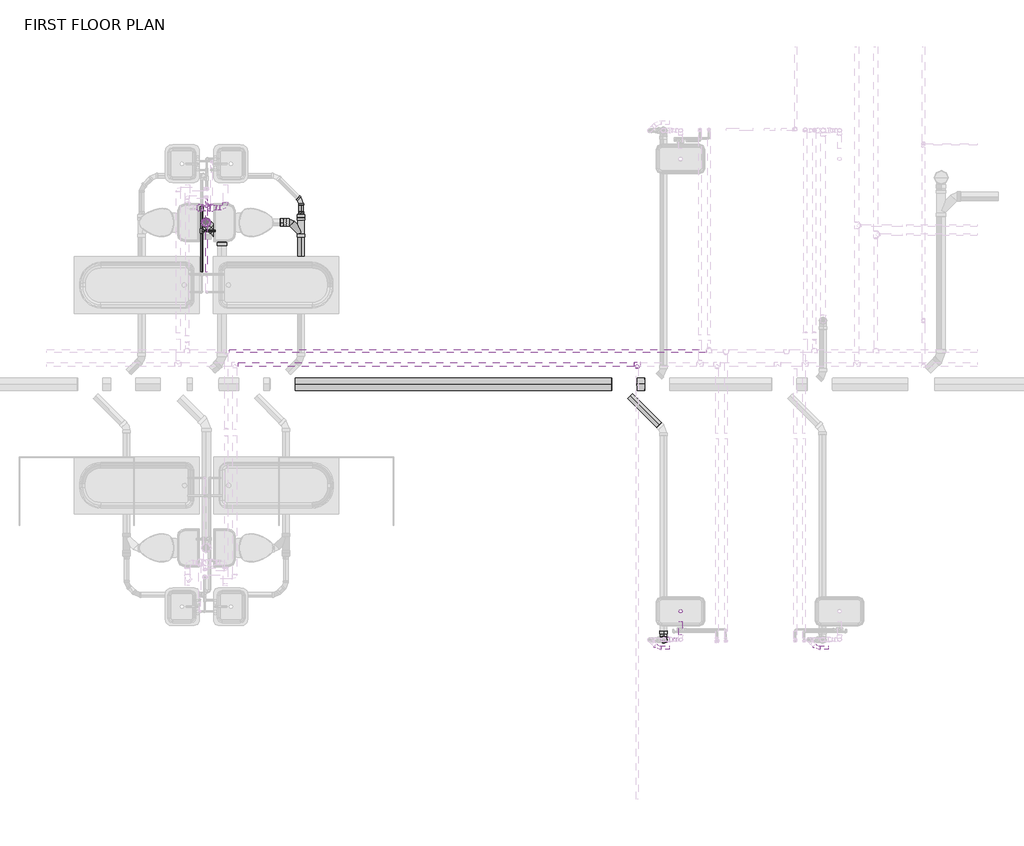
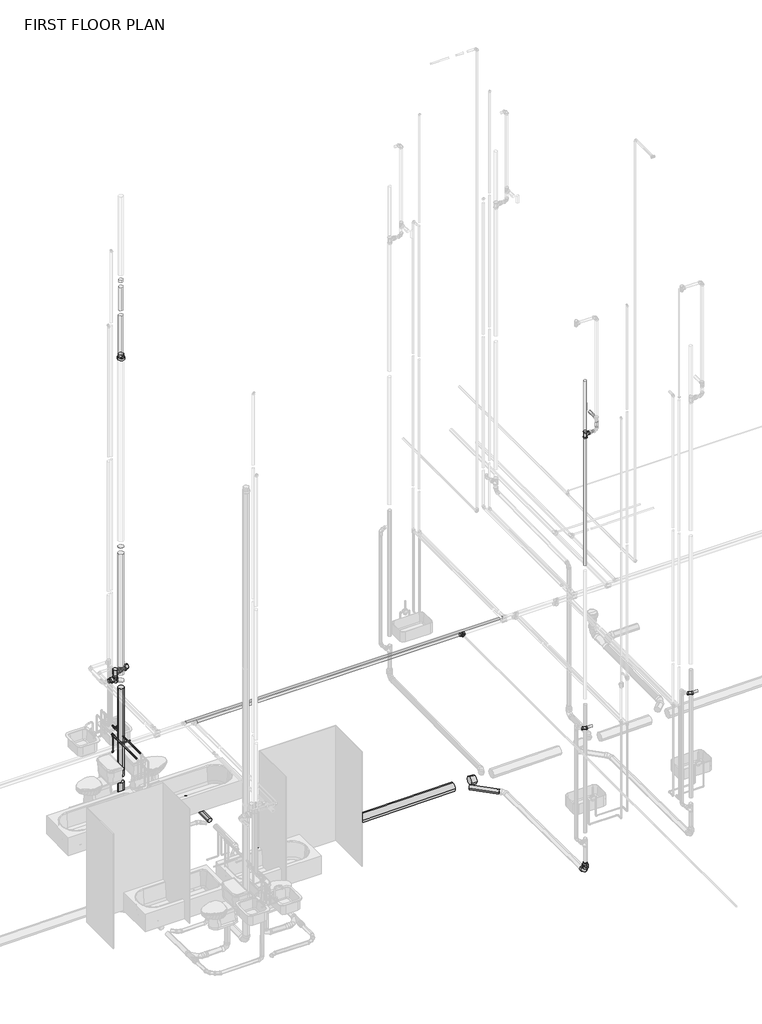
# One storey, part 9 of 29: 32 pipe segments, 27 pipe fittings.
"""IFC4 building model written with IfcOpenShell, lengths in millimetres."""

from ifc_helpers import new_model, si_unit, point, frame, frame_2d, origin, place, context, project, spatial, circle_curve, trimmed, segment, composite_curve, outline, extrude, transform, mapped, element, save
from components import bend_pvc_sch_40_dwv_standard_ddf7f1b2, bend_pvc_sch_40_dwv_standard_9a61ab34, bend_pvc_sch_40_dwv_standard_9d8d5a04, bend_pvc_sch_40_dwv_standard_9f71c251, bend_pvc_sch_40_dwv_standard_5c4d2726, bend_pvc_sch_40_dwv_standard_56c8873b, pipe_elbow_copper_k_feaaf02c, pipe_elbow_copper_k_aad62f2d, pipe_tee_copper_k_36278b8a, pipe_tee_copper_k_ee363fbf, pipe_tee_copper_k_feafe2f1, pipe_tee_copper_k_66279296, pipe_tee_standard_eb115f45, pipe_transition_copper_k_2e591508, pipe_transition_copper_k_b4f16853, pipe_transition_copper_k_b63fd5dd, reducer_pvc_sch_40_dwv_standard_464ee0c2, reducer_pvc_sch_40_dwv_standard_f8e5081b, reducer_pvc_sch_40_dwv_standard_80dbeaf5, reducer_pvc_sch_40_dwv_standard_58c00515, standard_544587f6, tee_sanitary_pvc_sch_40_dwv_standard_63ee02c0

model = new_model("IFC4")

# Units and contexts
model_context = context("Model", 3, world=origin())
ifc_project = project(units=[si_unit("LENGTHUNIT", "METRE", prefix="MILLI")], contexts=[model_context])

# Site, building, storey
site = spatial("IfcSite", under=ifc_project)
building = spatial("IfcBuilding", under=site)
storey = spatial("IfcBuildingStorey", under=building, Name="FIRST FLOOR PLAN", Elevation=0.0)

# Pipe fittings
placement = place(None, origin())
bend_pvc_sch_40_dwv_standard_shape = bend_pvc_sch_40_dwv_standard_ddf7f1b2(model_context)
element("IfcPipeFitting", 1, ObjectType="Bend - PVC - Sch 40 - DWV : Standard", at=placement, inside=storey, context=model_context, shape_type="MappedRepresentation", body=[
    mapped(bend_pvc_sch_40_dwv_standard_shape, transform((8238.7321961, 2089.9221741, -445.6253175), x_axis=(0.0, 0.0, -1.0), y_axis=(0.0, -1.0, 0.0), z_axis=(-1.0, 0.0, 0.0))),
])
bend_pvc_sch_40_dwv_standard_2_shape = bend_pvc_sch_40_dwv_standard_9a61ab34(model_context)
element("IfcPipeFitting", 2, ObjectType="Bend - PVC - Sch 40 - DWV : Standard", at=placement, inside=storey, context=model_context, shape_type="MappedRepresentation", body=[
    mapped(bend_pvc_sch_40_dwv_standard_2_shape, transform((8161.8285818, 1981.9339371, 2685.810937), x_axis=(-0.9999457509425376, 0.0, 0.010416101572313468), y_axis=(-4.542044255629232e-05, -0.9999904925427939, -0.004360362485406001), z_axis=(0.010416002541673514, -0.004360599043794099, 0.9999362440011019))),
])
element("IfcPipeFitting", 3, ObjectType="Bend - PVC - Sch 40 - DWV : Standard", at=placement, inside=storey, context=model_context, shape_type="MappedRepresentation", body=[
    mapped(bend_pvc_sch_40_dwv_standard_2_shape, transform((10290.2035818, 1981.9339371, 2685.810937), x_axis=(-0.9999457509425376, 0.0, 0.010416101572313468), y_axis=(-4.542044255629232e-05, -0.9999904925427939, -0.004360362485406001), z_axis=(0.010416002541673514, -0.004360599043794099, 0.9999362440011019))),
])
bend_pvc_sch_40_dwv_standard_3_shape = bend_pvc_sch_40_dwv_standard_9d8d5a04(model_context)
element("IfcPipeFitting", 4, ObjectType="Bend - PVC - Sch 40 - DWV : Standard", at=placement, inside=storey, context=model_context, shape_type="MappedRepresentation", body=[
    mapped(bend_pvc_sch_40_dwv_standard_3_shape, transform((3385.2549441, 7972.935376, -498.9480987), x_axis=(0.0, 0.9999457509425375, 0.010416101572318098), y_axis=(-0.9999906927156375, -4.493975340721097e-05, 0.004314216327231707), z_axis=(0.00431445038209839, -0.010416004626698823, 0.9999364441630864))),
])
bend_pvc_sch_40_dwv_standard_4_shape = bend_pvc_sch_40_dwv_standard_9f71c251(model_context)
element("IfcPipeFitting", 5, ObjectType="Bend - PVC - Sch 40 - DWV : Standard", at=placement, inside=storey, context=model_context, shape_type="MappedRepresentation", body=[
    mapped(bend_pvc_sch_40_dwv_standard_4_shape, transform((2111.7532984, 7679.2053289, -503.3650442), x_axis=(6.123351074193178e-08, 0.0, -0.9999999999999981), y_axis=(0.707145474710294, -0.7070680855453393, 4.330100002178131e-08), z_axis=(-0.707068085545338, -0.7071454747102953, -4.3296261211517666e-08))),
])
bend_pvc_sch_40_dwv_standard_5_shape = bend_pvc_sch_40_dwv_standard_5c4d2726(model_context)
element("IfcPipeFitting", 6, ObjectType="Bend - PVC - Sch 40 - DWV : Standard", at=placement, inside=storey, context=model_context, shape_type="MappedRepresentation", body=[
    mapped(bend_pvc_sch_40_dwv_standard_5_shape, transform((2324.8590713, 7466.1228783, -506.5176658), x_axis=(0.0, 0.9998905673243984, 0.014793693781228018), y_axis=(-1.0, 0.0, -8.501431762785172e-12), z_axis=(-8.502362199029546e-12, -0.014793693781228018, 0.9998905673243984))),
])
bend_pvc_sch_40_dwv_standard_6_shape = bend_pvc_sch_40_dwv_standard_56c8873b(model_context)
element("IfcPipeFitting", 7, ObjectType="Bend - PVC - Sch 40 - DWV : Standard", at=placement, inside=storey, context=model_context, shape_type="MappedRepresentation", body=[
    mapped(bend_pvc_sch_40_dwv_standard_6_shape, transform((2372.3084875, 7876.8887644, 2438.3990858), x_axis=(0.9999989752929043, 0.0, -0.0014315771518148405), y_axis=(-1.2572894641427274e-08, 0.9999999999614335, -8.782538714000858e-06), z_axis=(0.0014315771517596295, 8.782547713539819e-06, 0.9999989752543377))),
])
pipe_elbow_copper_k_shape = pipe_elbow_copper_k_feaaf02c(model_context)
element("IfcPipeFitting", 8, ObjectType="Pipe Elbow : Copper- K", at=placement, inside=storey, context=model_context, shape_type="MappedRepresentation", body=[
    mapped(pipe_elbow_copper_k_shape, transform((2186.5709875, 7910.5468309, 1219.2), x_axis=(1.0, 0.0, 0.0), y_axis=(0.0, 1.0, 0.0), z_axis=(0.0, 0.0, 1.0))),
])
pipe_elbow_copper_k_2_shape = pipe_elbow_copper_k_aad62f2d(model_context)
element("IfcPipeFitting", 9, ObjectType="Pipe Elbow : Copper- K", at=placement, inside=storey, context=model_context, shape_type="MappedRepresentation", body=[
    mapped(pipe_elbow_copper_k_2_shape, transform((2054.8084875, 7859.3528944, 762.0), x_axis=(0.0, 0.0, -1.0), y_axis=(-1.0, 0.0, 0.0), z_axis=(0.0, 1.0, 0.0))),
])
pipe_tee_copper_k_shape = pipe_tee_copper_k_36278b8a(model_context)
element("IfcPipeFitting", 10, ObjectType="Pipe Tee : Copper- K", at=placement, inside=storey, context=model_context, shape_type="MappedRepresentation", body=[
    mapped(pipe_tee_copper_k_shape, transform((7886.7826705, 5778.2175381, 2490.6882813), x_axis=(1.0, 0.0, 0.0), y_axis=(0.0, 1.0, 0.0), z_axis=(0.0, 0.0, 1.0))),
])
pipe_tee_copper_k_2_shape = pipe_tee_copper_k_ee363fbf(model_context)
element("IfcPipeFitting", 11, ObjectType="Pipe Tee : Copper- K", at=placement, inside=storey, context=model_context, shape_type="MappedRepresentation", body=[
    mapped(pipe_tee_copper_k_2_shape, transform((2118.3084875, 7910.5468309, 1219.2), x_axis=(0.0, 1.0, 0.0), y_axis=(-1.0, 0.0, 0.0), z_axis=(0.0, 0.0, 1.0))),
])
pipe_tee_copper_k_3_shape = pipe_tee_copper_k_feafe2f1(model_context)
element("IfcPipeFitting", 12, ObjectType="Pipe Tee : Copper- K", at=placement, inside=storey, context=model_context, shape_type="MappedRepresentation", body=[
    mapped(pipe_tee_copper_k_3_shape, transform((2054.8084875, 7859.3528944, 1117.6), x_axis=(0.0, 1.0, 0.0), y_axis=(0.0, 0.0, 1.0), z_axis=(1.0, 0.0, 0.0))),
])
element("IfcPipeFitting", 13, ObjectType="Pipe Tee : Copper- K", at=placement, inside=storey, context=model_context, shape_type="MappedRepresentation", body=[
    mapped(pipe_tee_copper_k_3_shape, transform((2054.8084875, 7567.5498426, 1117.6), x_axis=(0.0, 1.0, 0.0), y_axis=(-1.0, 0.0, 0.0), z_axis=(0.0, 0.0, 1.0))),
])
pipe_tee_copper_k_4_shape = pipe_tee_copper_k_66279296(model_context)
element("IfcPipeFitting", 14, ObjectType="Pipe Tee : Standard", at=placement, inside=storey, context=model_context, shape_type="MappedRepresentation", body=[
    mapped(pipe_tee_copper_k_4_shape, transform((2111.7559337, 7876.8887644, 2285.9990858), x_axis=(0.0, 0.0, 1.0), y_axis=(1.0, 0.0, 0.0), z_axis=(0.0, 1.0, 0.0))),
])
pipe_tee_standard_shape = pipe_tee_standard_eb115f45(model_context)
element("IfcPipeFitting", 15, ObjectType="Pipe Tee : Standard", at=placement, inside=storey, context=model_context, shape_type="MappedRepresentation", body=[
    mapped(pipe_tee_standard_shape, transform((2111.7559337, 7876.8887644, 2438.7627068), x_axis=(0.0, 0.0, 1.0), y_axis=(-1.0, 0.0, 0.0), z_axis=(0.0, -1.0, 0.0))),
])
pipe_transition_copper_k_shape = pipe_transition_copper_k_2e591508(model_context)
element("IfcPipeFitting", 16, ObjectType="Pipe Transition : Copper- K", at=placement, inside=storey, context=model_context, shape_type="MappedRepresentation", body=[
    mapped(pipe_transition_copper_k_shape, transform((7886.7826705, 5735.3550381, 2490.6882813), x_axis=(0.0, -1.0, 0.0), y_axis=(1.0, 0.0, 0.0), z_axis=(0.0, 0.0, 1.0))),
])
pipe_transition_copper_k_2_shape = pipe_transition_copper_k_b4f16853(model_context)
element("IfcPipeFitting", 17, ObjectType="Pipe Transition : Copper- K", at=placement, inside=storey, context=model_context, shape_type="MappedRepresentation", body=[
    mapped(pipe_transition_copper_k_2_shape, transform((2054.8084875, 7537.3873426, 1117.6), x_axis=(0.0, -1.0, 0.0), y_axis=(1.0, 0.0, 0.0), z_axis=(0.0, 0.0, 1.0))),
])
pipe_transition_copper_k_3_shape = pipe_transition_copper_k_b63fd5dd(model_context)
element("IfcPipeFitting", 18, ObjectType="Pipe Transition : Copper- K", at=placement, inside=storey, context=model_context, shape_type="MappedRepresentation", body=[
    mapped(pipe_transition_copper_k_3_shape, transform((2054.8084875, 7859.3528944, 1087.4375), x_axis=(0.0, 0.0, -1.0), y_axis=(0.0, -1.0, 0.0), z_axis=(-1.0, 0.0, 0.0))),
])
element("IfcPipeFitting", 19, ObjectType="Pipe Transition : Copper- K", at=placement, inside=storey, context=model_context, shape_type="MappedRepresentation", body=[
    mapped(pipe_transition_copper_k_3_shape, transform((2084.9709875, 7567.5498426, 1117.6), x_axis=(1.0, 0.0, 0.0), y_axis=(0.0, 1.0, 0.0), z_axis=(0.0, 0.0, 1.0))),
])
reducer_pvc_sch_40_dwv_standard_shape = reducer_pvc_sch_40_dwv_standard_464ee0c2(model_context)
element("IfcPipeFitting", 20, ObjectType="Reducer - PVC - Sch 40 - DWV : Standard", at=placement, inside=storey, context=model_context, shape_type="MappedRepresentation", body=[
    mapped(reducer_pvc_sch_40_dwv_standard_shape, transform((3385.2549441, 7747.9647209, -501.291543), x_axis=(0.0, 0.9999457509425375, 0.010416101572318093), y_axis=(-0.9999457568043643, -0.00010848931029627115, 0.010414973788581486), z_axis=(0.010415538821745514, -0.010415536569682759, 0.999891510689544))),
])
reducer_pvc_sch_40_dwv_standard_2_shape = reducer_pvc_sch_40_dwv_standard_f8e5081b(model_context)
element("IfcPipeFitting", 21, ObjectType="Reducer - PVC - Sch 40 - DWV : Standard", at=placement, inside=storey, context=model_context, shape_type="MappedRepresentation", body=[
    mapped(reducer_pvc_sch_40_dwv_standard_2_shape, transform((8238.7321961, 2089.9221741, -329.7251175), x_axis=(0.0, 0.0, 1.0), y_axis=(0.0, -1.0, 0.0), z_axis=(1.0, 0.0, 0.0))),
])
element("IfcPipeFitting", 22, ObjectType="Reducer - PVC - Sch 40 - DWV : Standard", at=placement, inside=storey, context=model_context, shape_type="MappedRepresentation", body=[
    mapped(reducer_pvc_sch_40_dwv_standard_2_shape, transform((2056.1934337, 7876.8887644, 2285.9990858), x_axis=(-1.0, 0.0, 0.0), y_axis=(0.0, -1.0, 0.0), z_axis=(0.0, 0.0, 1.0))),
])
element("IfcPipeFitting", 23, ObjectType="Reducer - PVC - Sch 40 - DWV : Standard", at=placement, inside=storey, context=model_context, shape_type="MappedRepresentation", body=[
    mapped(reducer_pvc_sch_40_dwv_standard_2_shape, transform((2167.3183768, 7876.8887644, 2438.6831648), x_axis=(0.9999989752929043, 0.0, -0.001431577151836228), y_axis=(0.0, 1.0000000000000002, 0.0), z_axis=(0.001431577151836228, 0.0, 0.9999989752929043))),
])
reducer_pvc_sch_40_dwv_standard_3_shape = reducer_pvc_sch_40_dwv_standard_80dbeaf5(model_context)
element("IfcPipeFitting", 24, ObjectType="Reducer - PVC - Sch 40 - DWV : Standard", at=placement, inside=storey, context=model_context, shape_type="MappedRepresentation", body=[
    mapped(reducer_pvc_sch_40_dwv_standard_3_shape, transform((3187.6282648, 7680.8696436, -499.9318384), x_axis=(-0.9999457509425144, -2.162118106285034e-07, 0.01041610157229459), y_axis=(-0.00010827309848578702, -0.9999457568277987, -0.010414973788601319), z_axis=(0.010415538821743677, -0.010415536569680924, 0.9998915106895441))),
])
reducer_pvc_sch_40_dwv_standard_4_shape = reducer_pvc_sch_40_dwv_standard_58c00515(model_context)
element("IfcPipeFitting", 25, ObjectType="Reducer - PVC - Sch 40 - DWV : Standard", at=placement, inside=storey, context=model_context, shape_type="MappedRepresentation", body=[
    mapped(reducer_pvc_sch_40_dwv_standard_4_shape, transform((2111.7559411, 7679.2137881, 9222.9259733), x_axis=(-6.991457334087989e-08, 0.0, 0.9999999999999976), y_axis=(0.9999999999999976, 0.0, 6.991457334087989e-08), z_axis=(0.0, 1.0, 0.0))),
])
standard_shape = standard_544587f6(model_context)
element("IfcPipeFitting", 26, ObjectType="GES Wye Combination with 8th Bend - PVC - Sch 40 - DWV : Standard", at=placement, inside=storey, context=model_context, shape_type="MappedRepresentation", body=[
    mapped(standard_shape, transform((3385.2549441, 7680.8696864, -501.9904497), x_axis=(0.0, 0.9999457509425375, 0.010416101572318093), y_axis=(0.9999457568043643, 0.000108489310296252, -0.010414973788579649), z_axis=(-0.010415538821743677, 0.010415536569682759, -0.999891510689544))),
])
tee_sanitary_pvc_sch_40_dwv_standard_shape = tee_sanitary_pvc_sch_40_dwv_standard_63ee02c0(model_context)
element("IfcPipeFitting", 27, ObjectType="Tee Sanitary - PVC - Sch 40 - DWV : Standard", at=placement, inside=storey, context=model_context, shape_type="MappedRepresentation", body=[
    mapped(tee_sanitary_pvc_sch_40_dwv_standard_shape, transform((8238.7396365, 2089.8941393, 8869.5241105), x_axis=(0.0, 0.0, 1.0), y_axis=(1.0, 0.0, 0.0), z_axis=(0.0, 1.0, 0.0))),
])

# Pipe segments
element("IfcPipeSegment", 28, ObjectType="Copper", at=placement, inside=storey, context=model_context, shape_type="SweptSolid", body=[
    extrude(outline(composite_curve([segment(trimmed(circle_curve(frame_2d((5778.2175381, 2490.6882813)), 26.9875), [point((5805.2050381, 2490.6882813))], [point((5778.2175381, 2463.7007813))], False, "CARTESIAN"), True, "CONTINUOUS"), segment(trimmed(circle_curve(frame_2d((5778.2175381, 2490.6882813)), 26.9875), [point((5778.2175381, 2463.7007813))], [point((5751.2300381, 2490.6882813))], False, "CARTESIAN"), True, "CONTINUOUS"), segment(trimmed(circle_curve(frame_2d((5778.2175381, 2490.6882813)), 26.9875), [point((5751.2300381, 2490.6882813))], [point((5778.2175381, 2517.6757813))], False, "CARTESIAN"), True, "CONTINUOUS"), segment(trimmed(circle_curve(frame_2d((5778.2175381, 2490.6882813)), 26.9875), [point((5778.2175381, 2517.6757813))], [point((5805.2050381, 2490.6882813))], False, "CARTESIAN"), True, "CONTINUOUS")], self_intersect=False)), frame((2542.1709875, 0.0, 0.0), z_axis=(1.0, 0.0, 0.0), x_axis=(0.0, 1.0, 0.0)), (0.0, 0.0, 1.0), 5301.749183),
])
element("IfcPipeSegment", 29, ObjectType="Copper", at=placement, inside=storey, context=model_context, shape_type="SweptSolid", body=[
    extrude(outline(composite_curve([segment(trimmed(circle_curve(frame_2d((7910.5468309, 1219.2)), 11.1125), [point((7899.4343309, 1219.2))], [point((7910.5468309, 1230.3125))], False, "CARTESIAN"), True, "CONTINUOUS"), segment(trimmed(circle_curve(frame_2d((7910.5468309, 1219.2)), 11.1125), [point((7910.5468309, 1230.3125))], [point((7921.6593309, 1219.2))], False, "CARTESIAN"), True, "CONTINUOUS"), segment(trimmed(circle_curve(frame_2d((7910.5468309, 1219.2)), 11.1125), [point((7921.6593309, 1219.2))], [point((7910.5468309, 1208.0875))], False, "CARTESIAN"), True, "CONTINUOUS"), segment(trimmed(circle_curve(frame_2d((7910.5468309, 1219.2)), 11.1125), [point((7910.5468309, 1208.0875))], [point((7899.4343309, 1219.2))], False, "CARTESIAN"), True, "CONTINUOUS")], self_intersect=False)), frame((2145.2959875, 0.0, 0.0), z_axis=(1.0, 0.0, 0.0), x_axis=(0.0, 1.0, 0.0)), (0.0, 0.0, 1.0), 20.6375),
])
element("IfcPipeSegment", 30, ObjectType="Copper", at=placement, inside=storey, context=model_context, shape_type="SweptSolid", body=[
    extrude(outline(composite_curve([segment(trimmed(circle_curve(frame_2d((1219.2, 2118.3084875)), 11.1125), [point((1219.2, 2129.4209875))], [point((1230.3125, 2118.3084875))], False, "CARTESIAN"), True, "CONTINUOUS"), segment(trimmed(circle_curve(frame_2d((1219.2, 2118.3084875)), 11.1125), [point((1230.3125, 2118.3084875))], [point((1219.2, 2107.1959875))], False, "CARTESIAN"), True, "CONTINUOUS"), segment(trimmed(circle_curve(frame_2d((1219.2, 2118.3084875)), 11.1125), [point((1219.2, 2107.1959875))], [point((1208.0875, 2118.3084875))], False, "CARTESIAN"), True, "CONTINUOUS"), segment(trimmed(circle_curve(frame_2d((1219.2, 2118.3084875)), 11.1125), [point((1208.0875, 2118.3084875))], [point((1219.2, 2129.4209875))], False, "CARTESIAN"), True, "CONTINUOUS")], self_intersect=False)), frame((0.0, 7937.5343309, 0.0), z_axis=(0.0, 1.0, 0.0), x_axis=(0.0, 0.0, 1.0)), (0.0, 0.0, 1.0), 62.9888322),
])
element("IfcPipeSegment", 31, ObjectType="Copper", at=placement, inside=storey, context=model_context, shape_type="SweptSolid", body=[
    extrude(outline(composite_curve([segment(trimmed(circle_curve(frame_2d((2054.8084875, 7859.3528944)), 7.9375), [point((2062.7459875, 7859.3528944))], [point((2054.8084875, 7851.4153944))], False, "CARTESIAN"), True, "CONTINUOUS"), segment(trimmed(circle_curve(frame_2d((2054.8084875, 7859.3528944)), 7.9375), [point((2054.8084875, 7851.4153944))], [point((2046.8709875, 7859.3528944))], False, "CARTESIAN"), True, "CONTINUOUS"), segment(trimmed(circle_curve(frame_2d((2054.8084875, 7859.3528944)), 7.9375), [point((2046.8709875, 7859.3528944))], [point((2054.8084875, 7867.2903944))], False, "CARTESIAN"), True, "CONTINUOUS"), segment(trimmed(circle_curve(frame_2d((2054.8084875, 7859.3528944)), 7.9375), [point((2054.8084875, 7867.2903944))], [point((2062.7459875, 7859.3528944))], False, "CARTESIAN"), True, "CONTINUOUS")], self_intersect=False)), frame((0.0, 0.0, 779.4625), z_axis=(0.0, 0.0, 1.0), x_axis=(1.0, 0.0, 0.0)), (0.0, 0.0, 1.0), 300.83125),
])
element("IfcPipeSegment", 32, ObjectType="Copper", at=placement, inside=storey, context=model_context, shape_type="SweptSolid", body=[
    extrude(outline(composite_curve([segment(trimmed(circle_curve(frame_2d((7567.5498426, 1117.6)), 7.9375), [point((7559.6123426, 1117.6))], [point((7567.5498426, 1125.5375))], False, "CARTESIAN"), True, "CONTINUOUS"), segment(trimmed(circle_curve(frame_2d((7567.5498426, 1117.6)), 7.9375), [point((7567.5498426, 1125.5375))], [point((7575.4873426, 1117.6))], False, "CARTESIAN"), True, "CONTINUOUS"), segment(trimmed(circle_curve(frame_2d((7567.5498426, 1117.6)), 7.9375), [point((7575.4873426, 1117.6))], [point((7567.5498426, 1109.6625))], False, "CARTESIAN"), True, "CONTINUOUS"), segment(trimmed(circle_curve(frame_2d((7567.5498426, 1117.6)), 7.9375), [point((7567.5498426, 1109.6625))], [point((7559.6123426, 1117.6))], False, "CARTESIAN"), True, "CONTINUOUS")], self_intersect=False)), frame((2092.1147375, 0.0, 0.0), z_axis=(1.0, 0.0, 0.0), x_axis=(0.0, 1.0, 0.0)), (0.0, 0.0, 1.0), 140.49375),
])
element("IfcPipeSegment", 33, ObjectType="Copper", at=placement, inside=storey, context=model_context, shape_type="SweptSolid", body=[
    extrude(outline(composite_curve([segment(trimmed(circle_curve(frame_2d((1117.6, 2054.8084875)), 14.2875), [point((1117.6, 2040.5209875))], [point((1103.3125, 2054.8084875))], False, "CARTESIAN"), True, "CONTINUOUS"), segment(trimmed(circle_curve(frame_2d((1117.6, 2054.8084875)), 14.2875), [point((1103.3125, 2054.8084875))], [point((1117.6, 2069.0959875))], False, "CARTESIAN"), True, "CONTINUOUS"), segment(trimmed(circle_curve(frame_2d((1117.6, 2054.8084875)), 14.2875), [point((1117.6, 2069.0959875))], [point((1131.8875, 2054.8084875))], False, "CARTESIAN"), True, "CONTINUOUS"), segment(trimmed(circle_curve(frame_2d((1117.6, 2054.8084875)), 14.2875), [point((1131.8875, 2054.8084875))], [point((1117.6, 2040.5209875))], False, "CARTESIAN"), True, "CONTINUOUS")], self_intersect=False)), frame((0.0, 7597.7123426, 0.0), z_axis=(0.0, 1.0, 0.0), x_axis=(0.0, 0.0, 1.0)), (0.0, 0.0, 1.0), 231.4780518),
])
element("IfcPipeSegment", 34, ObjectType="Copper", at=placement, inside=storey, context=model_context, shape_type="SweptSolid", body=[
    extrude(outline(composite_curve([segment(trimmed(circle_curve(frame_2d((1219.2, 2118.3084875)), 11.1125), [point((1219.2, 2107.1959875))], [point((1208.0875, 2118.3084875))], False, "CARTESIAN"), True, "CONTINUOUS"), segment(trimmed(circle_curve(frame_2d((1219.2, 2118.3084875)), 11.1125), [point((1208.0875, 2118.3084875))], [point((1219.2, 2129.4209875))], False, "CARTESIAN"), True, "CONTINUOUS"), segment(trimmed(circle_curve(frame_2d((1219.2, 2118.3084875)), 11.1125), [point((1219.2, 2129.4209875))], [point((1230.3125, 2118.3084875))], False, "CARTESIAN"), True, "CONTINUOUS"), segment(trimmed(circle_curve(frame_2d((1219.2, 2118.3084875)), 11.1125), [point((1230.3125, 2118.3084875))], [point((1219.2, 2107.1959875))], False, "CARTESIAN"), True, "CONTINUOUS")], self_intersect=False)), frame((0.0, 7013.009719, 0.0), z_axis=(0.0, 1.0, 0.0), x_axis=(0.0, 0.0, 1.0)), (0.0, 0.0, 1.0), 870.5496119),
])
element("IfcPipeSegment", 35, ObjectType="Copper", at=placement, inside=storey, context=model_context, shape_type="SweptSolid", body=[
    extrude(outline(composite_curve([segment(trimmed(circle_curve(frame_2d((1117.6, 2054.8084875)), 11.1125), [point((1117.6, 2043.6959875))], [point((1106.4875, 2054.8084875))], False, "CARTESIAN"), True, "CONTINUOUS"), segment(trimmed(circle_curve(frame_2d((1117.6, 2054.8084875)), 11.1125), [point((1106.4875, 2054.8084875))], [point((1117.6, 2065.9209875))], False, "CARTESIAN"), True, "CONTINUOUS"), segment(trimmed(circle_curve(frame_2d((1117.6, 2054.8084875)), 11.1125), [point((1117.6, 2065.9209875))], [point((1128.7125, 2054.8084875))], False, "CARTESIAN"), True, "CONTINUOUS"), segment(trimmed(circle_curve(frame_2d((1117.6, 2054.8084875)), 11.1125), [point((1128.7125, 2054.8084875))], [point((1117.6, 2043.6959875))], False, "CARTESIAN"), True, "CONTINUOUS")], self_intersect=False)), frame((0.0, 7013.009719, 0.0), z_axis=(0.0, 1.0, 0.0), x_axis=(0.0, 0.0, 1.0)), (0.0, 0.0, 1.0), 517.2338736),
])
element("IfcPipeSegment", 36, ObjectType="Copper", at=placement, inside=storey, context=model_context, shape_type="SweptSolid", body=[
    extrude(outline(composite_curve([segment(trimmed(circle_curve(frame_2d((5956.0175381, 2413.0)), 20.6375), [point((5935.3800381, 2413.0))], [point((5956.0175381, 2433.6375))], False, "CARTESIAN"), True, "CONTINUOUS"), segment(trimmed(circle_curve(frame_2d((5956.0175381, 2413.0)), 20.6375), [point((5956.0175381, 2433.6375))], [point((5976.6550381, 2413.0))], False, "CARTESIAN"), True, "CONTINUOUS"), segment(trimmed(circle_curve(frame_2d((5956.0175381, 2413.0)), 20.6375), [point((5976.6550381, 2413.0))], [point((5956.0175381, 2392.3625))], False, "CARTESIAN"), True, "CONTINUOUS"), segment(trimmed(circle_curve(frame_2d((5956.0175381, 2413.0)), 20.6375), [point((5956.0175381, 2392.3625))], [point((5935.3800381, 2413.0))], False, "CARTESIAN"), True, "CONTINUOUS")], self_intersect=False)), frame((2420.4023661, 0.0, 0.0), z_axis=(1.0, 0.0, 0.0), x_axis=(0.0, 1.0, 0.0)), (0.0, 0.0, 1.0), 6388.8261636),
])
element("IfcPipeSegment", 37, ObjectType="PVC - SAN/STORM", at=placement, inside=storey, context=model_context, shape_type="SweptSolid", body=[
    extrude(outline(composite_curve([segment(trimmed(circle_curve(frame_2d((8238.7396365, 2089.8941393)), 30.1625), [point((8208.5771365, 2089.8941393))], [point((8238.7396365, 2120.0566393))], False, "CARTESIAN"), True, "CONTINUOUS"), segment(trimmed(circle_curve(frame_2d((8238.7396365, 2089.8941393)), 30.1625), [point((8238.7396365, 2120.0566393))], [point((8268.9021365, 2089.8941393))], False, "CARTESIAN"), True, "CONTINUOUS"), segment(trimmed(circle_curve(frame_2d((8238.7396365, 2089.8941393)), 30.1625), [point((8268.9021365, 2089.8941393))], [point((8238.7396365, 2059.7316393))], False, "CARTESIAN"), True, "CONTINUOUS"), segment(trimmed(circle_curve(frame_2d((8238.7396365, 2089.8941393)), 30.1625), [point((8238.7396365, 2059.7316393))], [point((8208.5771365, 2089.8941393))], False, "CARTESIAN"), True, "CONTINUOUS")], self_intersect=False)), frame((0.0, 0.0, 8923.499597), z_axis=(0.0, 0.0, 1.0), x_axis=(1.0, 0.0, 0.0)), (0.0, 0.0, 1.0), 1081.0924419),
])
element("IfcPipeSegment", 38, ObjectType="PVC - SAN/STORM", at=placement, inside=storey, context=model_context, shape_type="SweptSolid", body=[
    extrude(outline(composite_curve([segment(trimmed(circle_curve(frame_2d((0.0, -24.13)), 24.13), [point((-24.13, -24.13))], [point((0.0, 0.0))], False, "CARTESIAN"), True, "CONTINUOUS"), segment(trimmed(circle_curve(frame_2d((0.0, -24.13)), 24.13), [point((0.0, 0.0))], [point((24.13, -24.13))], False, "CARTESIAN"), True, "CONTINUOUS"), segment(trimmed(circle_curve(frame_2d((0.0, -24.13)), 24.13), [point((24.13, -24.13))], [point((0.0, -48.2600001))], False, "CARTESIAN"), True, "CONTINUOUS"), segment(trimmed(circle_curve(frame_2d((0.0, -24.13)), 24.13), [point((0.0, -48.2600001))], [point((-24.13, -24.13))], False, "CARTESIAN"), True, "CONTINUOUS")], self_intersect=False)), frame((8467.5209875, 2151.8490706, 9088.9331025), z_axis=(0.0, 0.9999457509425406, 0.010416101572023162), x_axis=(1.0, 0.0, 0.0)), (0.0, 0.0, 1.0), 182.6011639),
])
element("IfcPipeSegment", 39, ObjectType="PVC - SAN/STORM", at=placement, inside=storey, context=model_context, shape_type="SweptSolid", body=[
    extrude(outline(composite_curve([segment(trimmed(circle_curve(frame_2d((8467.5209875, 2469.1137881)), 24.13), [point((8443.3909875, 2469.1137881))], [point((8467.5209875, 2493.2437881))], False, "CARTESIAN"), True, "CONTINUOUS"), segment(trimmed(circle_curve(frame_2d((8467.5209875, 2469.1137881)), 24.13), [point((8467.5209875, 2493.2437881))], [point((8491.6509875, 2469.1137881))], False, "CARTESIAN"), True, "CONTINUOUS"), segment(trimmed(circle_curve(frame_2d((8467.5209875, 2469.1137881)), 24.13), [point((8491.6509875, 2469.1137881))], [point((8467.5209875, 2444.9837881))], False, "CARTESIAN"), True, "CONTINUOUS"), segment(trimmed(circle_curve(frame_2d((8467.5209875, 2469.1137881)), 24.13), [point((8467.5209875, 2444.9837881))], [point((8443.3909875, 2469.1137881))], False, "CARTESIAN"), True, "CONTINUOUS")], self_intersect=False)), frame((0.0, 0.0, 9070.5010858), z_axis=(0.0, 0.0, 1.0), x_axis=(1.0, 0.0, 0.0)), (0.0, 0.0, 1.0), 139.7),
])
element("IfcPipeSegment", 40, ObjectType="PVC - SAN/STORM", at=placement, inside=storey, context=model_context, shape_type="SweptSolid", body=[
    extrude(outline(composite_curve([segment(trimmed(circle_curve(frame_2d((0.0, 24.13)), 24.13), [point((0.0, 0.0))], [point((-24.13, 24.13))], False, "CARTESIAN"), True, "CONTINUOUS"), segment(trimmed(circle_curve(frame_2d((0.0, 24.13)), 24.13), [point((-24.13, 24.13))], [point((0.0, 48.26))], False, "CARTESIAN"), True, "CONTINUOUS"), segment(trimmed(circle_curve(frame_2d((0.0, 24.13)), 24.13), [point((0.0, 48.26))], [point((24.1299999, 24.13))], False, "CARTESIAN"), True, "CONTINUOUS"), segment(trimmed(circle_curve(frame_2d((0.0, 24.13)), 24.13), [point((24.1299999, 24.13))], [point((0.0, 0.0))], False, "CARTESIAN"), True, "CONTINUOUS")], self_intersect=False)), frame((8366.7633581, 2065.5712881, 8871.1287185), z_axis=(0.9999457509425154, 0.0, 0.010416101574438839), x_axis=(0.010416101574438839, 0.0, -0.9999457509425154)), (0.0, 0.0, 1.0), 38.8589575),
])
element("IfcPipeSegment", 41, ObjectType="PVC - SAN/STORM", at=placement, inside=storey, context=model_context, shape_type="SweptSolid", body=[
    extrude(outline(composite_curve([segment(trimmed(circle_curve(frame_2d((0.0, -24.13)), 24.13), [point((-24.1299999, -24.13))], [point((0.0, 0.0))], False, "CARTESIAN"), True, "CONTINUOUS"), segment(trimmed(circle_curve(frame_2d((0.0, -24.13)), 24.13), [point((0.0, 0.0))], [point((24.13, -24.13))], False, "CARTESIAN"), True, "CONTINUOUS"), segment(trimmed(circle_curve(frame_2d((0.0, -24.13)), 24.13), [point((24.13, -24.13))], [point((0.0, -48.26))], False, "CARTESIAN"), True, "CONTINUOUS"), segment(trimmed(circle_curve(frame_2d((0.0, -24.13)), 24.13), [point((0.0, -48.26))], [point((-24.1299999, -24.13))], False, "CARTESIAN"), True, "CONTINUOUS")], self_intersect=False)), frame((8467.5166496, 2065.5712881, 8934.078032), z_axis=(3.725464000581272e-05, 0.0, 0.9999999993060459), x_axis=(-0.9999999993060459, 0.0, 3.725464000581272e-05)), (0.0, 0.0, 1.0), 116.439207),
])
element("IfcPipeSegment", 42, ObjectType="PVC - SAN/STORM", at=placement, inside=storey, context=model_context, shape_type="SweptSolid", body=[
    extrude(outline(composite_curve([segment(trimmed(circle_curve(frame_2d((8238.7396365, 2089.8941393)), 30.1625), [point((8208.5771365, 2089.8941393))], [point((8238.7396365, 2120.0566393))], False, "CARTESIAN"), True, "CONTINUOUS"), segment(trimmed(circle_curve(frame_2d((8238.7396365, 2089.8941393)), 30.1625), [point((8238.7396365, 2120.0566393))], [point((8268.9021365, 2089.8941393))], False, "CARTESIAN"), True, "CONTINUOUS"), segment(trimmed(circle_curve(frame_2d((8238.7396365, 2089.8941393)), 30.1625), [point((8268.9021365, 2089.8941393))], [point((8238.7396365, 2059.7316393))], False, "CARTESIAN"), True, "CONTINUOUS"), segment(trimmed(circle_curve(frame_2d((8238.7396365, 2089.8941393)), 30.1625), [point((8238.7396365, 2059.7316393))], [point((8208.5771365, 2089.8941393))], False, "CARTESIAN"), True, "CONTINUOUS")], self_intersect=False)), frame((0.0, 0.0, 6080.9367935), z_axis=(0.0, 0.0, 1.0), x_axis=(1.0, 0.0, 0.0)), (0.0, 0.0, 1.0), 2710.787117),
])
element("IfcPipeSegment", 43, ObjectType="PVC - SAN/STORM", at=placement, inside=storey, context=model_context, shape_type="SweptSolid", body=[
    extrude(outline(composite_curve([segment(trimmed(circle_curve(frame_2d((0.0, 24.13)), 24.13), [point((0.0, 48.26))], [point((24.13, 24.13))], False, "CARTESIAN"), True, "CONTINUOUS"), segment(trimmed(circle_curve(frame_2d((0.0, 24.13)), 24.13), [point((24.13, 24.13))], [point((0.0, 0.0))], False, "CARTESIAN"), True, "CONTINUOUS"), segment(trimmed(circle_curve(frame_2d((0.0, 24.13)), 24.13), [point((0.0, 0.0))], [point((-24.13, 24.13))], False, "CARTESIAN"), True, "CONTINUOUS"), segment(trimmed(circle_curve(frame_2d((0.0, 24.13)), 24.13), [point((-24.13, 24.13))], [point((0.0, 48.26))], False, "CARTESIAN"), True, "CONTINUOUS")], self_intersect=False)), frame((8313.7520332, 1957.8039371, 2684.2284011), z_axis=(-0.9999457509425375, 0.0, 0.010416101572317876), x_axis=(0.010416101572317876, 0.0, 0.9999457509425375)), (0.0, 0.0, 1.0), 105.9068936),
])
element("IfcPipeSegment", 44, ObjectType="PVC - SAN/STORM", at=placement, inside=storey, context=model_context, shape_type="SweptSolid", body=[
    extrude(outline(composite_curve([segment(trimmed(circle_curve(frame_2d((0.0, 24.13)), 24.13), [point((0.0, 48.26))], [point((24.13, 24.13))], False, "CARTESIAN"), True, "CONTINUOUS"), segment(trimmed(circle_curve(frame_2d((0.0, 24.13)), 24.13), [point((24.13, 24.13))], [point((0.0, 0.0))], False, "CARTESIAN"), True, "CONTINUOUS"), segment(trimmed(circle_curve(frame_2d((0.0, 24.13)), 24.13), [point((0.0, 0.0))], [point((-24.13, 24.13))], False, "CARTESIAN"), True, "CONTINUOUS"), segment(trimmed(circle_curve(frame_2d((0.0, 24.13)), 24.13), [point((-24.13, 24.13))], [point((0.0, 48.26))], False, "CARTESIAN"), True, "CONTINUOUS")], self_intersect=False)), frame((10442.1270332, 1957.8039371, 2684.2284011), z_axis=(-0.9999457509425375, 0.0, 0.010416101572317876), x_axis=(0.010416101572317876, 0.0, 0.9999457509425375)), (0.0, 0.0, 1.0), 105.9068936),
])
element("IfcPipeSegment", 45, ObjectType="PVC - SAN/STORM", at=placement, inside=storey, context=model_context, shape_type="SweptSolid", body=[
    extrude(outline(composite_curve([segment(trimmed(circle_curve(frame_2d((0.0, -44.45)), 44.45), [point((44.448795, -44.1227024))], [point((0.3272976, -88.898795))], False, "CARTESIAN"), True, "CONTINUOUS"), segment(trimmed(circle_curve(frame_2d((0.0, -44.45)), 44.45), [point((0.3272976, -88.898795))], [point((-44.4487949, -44.7772975))], False, "CARTESIAN"), True, "CONTINUOUS"), segment(trimmed(circle_curve(frame_2d((0.0, -44.45)), 44.45), [point((-44.4487949, -44.7772975))], [point((-0.3272975, -0.001205))], False, "CARTESIAN"), True, "CONTINUOUS"), segment(trimmed(circle_curve(frame_2d((0.0, -44.45)), 44.45), [point((-0.3272975, -0.001205))], [point((44.448795, -44.1227024))], False, "CARTESIAN"), True, "CONTINUOUS")], self_intersect=False)), frame((7791.892601, 5352.8205303, -431.658843), z_axis=(0.7069665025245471, -0.7072086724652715, 0.007365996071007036), x_axis=(0.7072470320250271, 0.7069281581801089, -0.007363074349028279)), (0.0, 0.0, 1.0), 549.5020045),
])
element("IfcPipeSegment", 46, ObjectType="PVC - SAN/STORM", at=placement, inside=storey, context=model_context, shape_type="SweptSolid", body=[
    extrude(outline(composite_curve([segment(trimmed(circle_curve(frame_2d((0.0, -30.1625)), 30.1625), [point((-30.1625, -30.1625))], [point((0.0, 0.0))], False, "CARTESIAN"), True, "CONTINUOUS"), segment(trimmed(circle_curve(frame_2d((0.0, -30.1625)), 30.1625), [point((0.0, 0.0))], [point((30.1625, -30.1625))], False, "CARTESIAN"), True, "CONTINUOUS"), segment(trimmed(circle_curve(frame_2d((0.0, -30.1625)), 30.1625), [point((30.1625, -30.1625))], [point((0.0, -60.325))], False, "CARTESIAN"), True, "CONTINUOUS"), segment(trimmed(circle_curve(frame_2d((0.0, -30.1625)), 30.1625), [point((0.0, -60.325))], [point((-30.1625, -30.1625))], False, "CARTESIAN"), True, "CONTINUOUS")], self_intersect=False)), frame((3385.2549441, 7827.6495905, -530.6256287), z_axis=(0.0, 0.9999457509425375, 0.010416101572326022), x_axis=(1.0, 0.0, 0.0)), (0.0, 0.0, 1.0), 88.4578602),
])
element("IfcPipeSegment", 47, ObjectType="PVC - SAN/STORM", at=placement, inside=storey, context=model_context, shape_type="SweptSolid", body=[
    extrude(outline(composite_curve([segment(trimmed(circle_curve(frame_2d((0.0, -44.4500001)), 44.45), [point((-44.45, -44.4500001))], [point((0.0, 0.0))], False, "CARTESIAN"), True, "CONTINUOUS"), segment(trimmed(circle_curve(frame_2d((0.0, -44.4500001)), 44.45), [point((0.0, 0.0))], [point((44.45, -44.4500001))], False, "CARTESIAN"), True, "CONTINUOUS"), segment(trimmed(circle_curve(frame_2d((0.0, -44.4500001)), 44.45), [point((44.45, -44.4500001))], [point((0.0, -88.9))], False, "CARTESIAN"), True, "CONTINUOUS"), segment(trimmed(circle_curve(frame_2d((0.0, -44.4500001)), 44.45), [point((0.0, -88.9))], [point((-44.45, -44.4500001))], False, "CARTESIAN"), True, "CONTINUOUS")], self_intersect=False)), frame((3385.2549441, 6789.5044244, -555.727916), z_axis=(0.0, 0.9999457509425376, 0.0104161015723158), x_axis=(1.0, 0.0, 0.0)), (0.0, 0.0, 1.0), 695.0439157),
])
element("IfcPipeSegment", 48, ObjectType="PVC - SAN/STORM", at=placement, inside=storey, context=model_context, shape_type="SweptSolid", body=[
    extrude(outline(composite_curve([segment(trimmed(circle_curve(frame_2d((0.0, 57.15)), 57.15), [point((-57.15, 57.15))], [point((0.0, 114.3))], False, "CARTESIAN"), True, "CONTINUOUS"), segment(trimmed(circle_curve(frame_2d((0.0, 57.15)), 57.15), [point((0.0, 114.3))], [point((57.15, 57.15))], False, "CARTESIAN"), True, "CONTINUOUS"), segment(trimmed(circle_curve(frame_2d((0.0, 57.15)), 57.15), [point((57.15, 57.15))], [point((0.0, 0.0))], False, "CARTESIAN"), True, "CONTINUOUS"), segment(trimmed(circle_curve(frame_2d((0.0, 57.15)), 57.15), [point((0.0, 0.0))], [point((-57.15, 57.15))], False, "CARTESIAN"), True, "CONTINUOUS")], self_intersect=False)), frame((2111.7564078, 7622.0637881, 2359.2438689), z_axis=(-6.991457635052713e-08, 0.0, 0.9999999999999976), x_axis=(0.9999999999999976, 0.0, 6.991457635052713e-08)), (0.0, 0.0, 1.0), 24.3518028),
])
element("IfcPipeSegment", 49, ObjectType="PVC - SAN/STORM", at=placement, inside=storey, context=model_context, shape_type="SweptSolid", body=[
    extrude(outline(composite_curve([segment(trimmed(circle_curve(frame_2d((0.0, 57.15)), 57.15), [point((-57.15, 57.15))], [point((0.0, 114.3))], False, "CARTESIAN"), True, "CONTINUOUS"), segment(trimmed(circle_curve(frame_2d((0.0, 57.15)), 57.15), [point((0.0, 114.3))], [point((57.15, 57.15))], False, "CARTESIAN"), True, "CONTINUOUS"), segment(trimmed(circle_curve(frame_2d((0.0, 57.15)), 57.15), [point((57.15, 57.15))], [point((0.0, 0.0))], False, "CARTESIAN"), True, "CONTINUOUS"), segment(trimmed(circle_curve(frame_2d((0.0, 57.15)), 57.15), [point((0.0, 0.0))], [point((-57.15, 57.15))], False, "CARTESIAN"), True, "CONTINUOUS")], self_intersect=False)), frame((2111.7565312, 7620.5093521, 359.5795607), z_axis=(-6.118257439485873e-08, 0.0008314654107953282, 0.9999996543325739), x_axis=(0.9999999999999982, 5.087130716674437e-11, 6.118255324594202e-08)), (0.0, 0.0, 1.0), 1869.5374727),
])
element("IfcPipeSegment", 50, ObjectType="PVC - SAN/STORM", at=placement, inside=storey, context=model_context, shape_type="SweptSolid", body=[
    extrude(outline(composite_curve([segment(trimmed(circle_curve(frame_2d((0.0, -84.1375)), 84.1375), [point((0.0, 0.0))], [point((84.1375, -84.1375))], False, "CARTESIAN"), True, "CONTINUOUS"), segment(trimmed(circle_curve(frame_2d((0.0, -84.1375)), 84.1375), [point((84.1375, -84.1375))], [point((0.0, -168.275))], False, "CARTESIAN"), True, "CONTINUOUS"), segment(trimmed(circle_curve(frame_2d((0.0, -84.1375)), 84.1375), [point((0.0, -168.275))], [point((-84.1374999, -84.1375))], False, "CARTESIAN"), True, "CONTINUOUS"), segment(trimmed(circle_curve(frame_2d((0.0, -84.1375)), 84.1375), [point((-84.1374999, -84.1375))], [point((0.0, 0.0))], False, "CARTESIAN"), True, "CONTINUOUS")], self_intersect=False)), frame((7884.2656363, 5598.1603988, -475.3218658), z_axis=(0.9999457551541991, 0.0, 0.01041569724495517), x_axis=(0.01041569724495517, 0.0, -0.9999457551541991)), (0.0, 0.0, 1.0), 103.5783453),
])
element("IfcPipeSegment", 51, ObjectType="PVC - SAN/STORM", at=placement, inside=storey, context=model_context, shape_type="SweptSolid", body=[
    extrude(outline(composite_curve([segment(trimmed(circle_curve(frame_2d((0.0, -84.1375)), 84.1375), [point((0.0, 0.0))], [point((84.1374999, -84.1375))], False, "CARTESIAN"), True, "CONTINUOUS"), segment(trimmed(circle_curve(frame_2d((0.0, -84.1375)), 84.1375), [point((84.1374999, -84.1375))], [point((0.0, -168.275))], False, "CARTESIAN"), True, "CONTINUOUS"), segment(trimmed(circle_curve(frame_2d((0.0, -84.1375)), 84.1375), [point((0.0, -168.275))], [point((-84.1375, -84.1375))], False, "CARTESIAN"), True, "CONTINUOUS"), segment(trimmed(circle_curve(frame_2d((0.0, -84.1375)), 84.1375), [point((-84.1375, -84.1375))], [point((0.0, 0.0))], False, "CARTESIAN"), True, "CONTINUOUS")], self_intersect=False)), frame((3305.3163485, 5598.1603988, -523.0174026), z_axis=(0.9999457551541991, 0.0, 0.01041569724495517), x_axis=(0.01041569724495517, 0.0, -0.9999457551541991)), (0.0, 0.0, 1.0), 4242.6476856),
])
element("IfcPipeSegment", 52, ObjectType="PVC - SAN/STORM", at=placement, inside=storey, context=model_context, shape_type="SweptSolid", body=[
    extrude(outline(composite_curve([segment(trimmed(circle_curve(frame_2d((0.0, 57.15)), 57.15), [point((57.1468727, 57.7478629))], [point((0.597863, 0.0031273))], False, "CARTESIAN"), True, "CONTINUOUS"), segment(trimmed(circle_curve(frame_2d((0.0, 57.15)), 57.15), [point((0.597863, 0.0031273))], [point((-57.1468727, 56.552137))], False, "CARTESIAN"), True, "CONTINUOUS"), segment(trimmed(circle_curve(frame_2d((0.0, 57.15)), 57.15), [point((-57.1468727, 56.552137))], [point((-0.597863, 114.2968727))], False, "CARTESIAN"), True, "CONTINUOUS"), segment(trimmed(circle_curve(frame_2d((0.0, 57.15)), 57.15), [point((-0.597863, 114.2968727))], [point((57.1468727, 57.7478629))], False, "CARTESIAN"), True, "CONTINUOUS")], self_intersect=False)), frame((2256.3756379, 7533.7533573, -448.3607969), z_axis=(-0.7071067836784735, 0.7070293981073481, 0.010460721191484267), x_axis=(0.7071067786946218, 0.7070294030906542, 0.010460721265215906)), (0.0, 0.0, 1.0), 61.6518731),
])
element("IfcPipeSegment", 53, ObjectType="PVC - SAN/STORM", at=placement, inside=storey, context=model_context, shape_type="SweptSolid", body=[
    extrude(outline(composite_curve([segment(trimmed(circle_curve(frame_2d((0.0, 30.1625)), 30.1625), [point((-30.1625, 30.1625))], [point((0.0, 60.325))], False, "CARTESIAN"), True, "CONTINUOUS"), segment(trimmed(circle_curve(frame_2d((0.0, 30.1625)), 30.1625), [point((0.0, 60.325))], [point((30.1625, 30.1625))], False, "CARTESIAN"), True, "CONTINUOUS"), segment(trimmed(circle_curve(frame_2d((0.0, 30.1625)), 30.1625), [point((30.1625, 30.1625))], [point((0.0, 0.0))], False, "CARTESIAN"), True, "CONTINUOUS"), segment(trimmed(circle_curve(frame_2d((0.0, 30.1625)), 30.1625), [point((0.0, 0.0))], [point((-30.1625, 30.1625))], False, "CARTESIAN"), True, "CONTINUOUS")], self_intersect=False)), frame((2294.4711046, 7876.8887644, 2408.3479858), z_axis=(-0.9999992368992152, 0.0, 0.0012353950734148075), x_axis=(0.0, -1.0, 0.0)), (0.0, 0.0, 1.0), 47.8151082),
])
element("IfcPipeSegment", 54, ObjectType="PVC - SAN/STORM", at=placement, inside=storey, context=model_context, shape_type="SweptSolid", body=[
    extrude(outline(composite_curve([segment(trimmed(circle_curve(frame_2d((0.0, 57.15)), 57.15), [point((-57.15, 57.15))], [point((0.0, 114.3))], False, "CARTESIAN"), True, "CONTINUOUS"), segment(trimmed(circle_curve(frame_2d((0.0, 57.15)), 57.15), [point((0.0, 114.3))], [point((57.15, 57.15))], False, "CARTESIAN"), True, "CONTINUOUS"), segment(trimmed(circle_curve(frame_2d((0.0, 57.15)), 57.15), [point((57.15, 57.15))], [point((0.0, 0.0))], False, "CARTESIAN"), True, "CONTINUOUS"), segment(trimmed(circle_curve(frame_2d((0.0, 57.15)), 57.15), [point((0.0, 0.0))], [point((-57.15, 57.15))], False, "CARTESIAN"), True, "CONTINUOUS")], self_intersect=False)), frame((2111.7563965, 7622.0637881, 2520.1206717), z_axis=(-6.507051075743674e-08, 0.0, 0.999999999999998), x_axis=(0.999999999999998, 0.0, 6.507051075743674e-08)), (0.0, 0.0, 1.0), 2566.1961967),
])
element("IfcPipeSegment", 55, ObjectType="PVC - SAN/STORM", at=placement, inside=storey, context=model_context, shape_type="SweptSolid", body=[
    extrude(outline(composite_curve([segment(trimmed(circle_curve(frame_2d((0.0, 57.15)), 57.15), [point((-57.15, 57.15))], [point((0.0, 114.3))], False, "CARTESIAN"), True, "CONTINUOUS"), segment(trimmed(circle_curve(frame_2d((0.0, 57.15)), 57.15), [point((0.0, 114.3))], [point((57.15, 57.15))], False, "CARTESIAN"), True, "CONTINUOUS"), segment(trimmed(circle_curve(frame_2d((0.0, 57.15)), 57.15), [point((57.15, 57.15))], [point((0.0, 0.0))], False, "CARTESIAN"), True, "CONTINUOUS"), segment(trimmed(circle_curve(frame_2d((0.0, 57.15)), 57.15), [point((0.0, 0.0))], [point((-57.15, 57.15))], False, "CARTESIAN"), True, "CONTINUOUS")], self_intersect=False)), frame((2111.7562199, 7622.0637881, 5222.8418684), z_axis=(-2.289267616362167e-06, 0.0, 0.9999999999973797), x_axis=(0.9999999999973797, 0.0, 2.289267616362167e-06)), (0.0, 0.0, 1.0), 5.6010926),
])
element("IfcPipeSegment", 56, ObjectType="PVC - SAN/STORM", at=placement, inside=storey, context=model_context, shape_type="SweptSolid", body=[
    extrude(outline(composite_curve([segment(trimmed(circle_curve(frame_2d((0.0, 44.45)), 44.45), [point((-44.45, 44.45))], [point((0.0, 88.9))], False, "CARTESIAN"), True, "CONTINUOUS"), segment(trimmed(circle_curve(frame_2d((0.0, 44.45)), 44.45), [point((0.0, 88.9))], [point((44.45, 44.45))], False, "CARTESIAN"), True, "CONTINUOUS"), segment(trimmed(circle_curve(frame_2d((0.0, 44.45)), 44.45), [point((44.45, 44.45))], [point((0.0, 0.0))], False, "CARTESIAN"), True, "CONTINUOUS"), segment(trimmed(circle_curve(frame_2d((0.0, 44.45)), 44.45), [point((0.0, 0.0))], [point((-44.45, 44.45))], False, "CARTESIAN"), True, "CONTINUOUS")], self_intersect=False)), frame((2111.7559337, 7634.7637913, 9329.2842978), z_axis=(0.0, -0.00037965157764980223, 0.9999999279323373), x_axis=(1.0, 0.0, 0.0)), (0.0, 0.0, 1.0), 828.4994319),
])
element("IfcPipeSegment", 57, ObjectType="PVC - SAN/STORM", at=placement, inside=storey, context=model_context, shape_type="SweptSolid", body=[
    extrude(outline(composite_curve([segment(trimmed(circle_curve(frame_2d((2111.7559337, 7679.2137881)), 44.45), [point((2067.3059337, 7679.2137881))], [point((2111.7559337, 7723.6637881))], False, "CARTESIAN"), True, "CONTINUOUS"), segment(trimmed(circle_curve(frame_2d((2111.7559337, 7679.2137881)), 44.45), [point((2111.7559337, 7723.6637881))], [point((2156.2059337, 7679.2137881))], False, "CARTESIAN"), True, "CONTINUOUS"), segment(trimmed(circle_curve(frame_2d((2111.7559337, 7679.2137881)), 44.45), [point((2156.2059337, 7679.2137881))], [point((2111.7559337, 7634.7637881))], False, "CARTESIAN"), True, "CONTINUOUS"), segment(trimmed(circle_curve(frame_2d((2111.7559337, 7679.2137881)), 44.45), [point((2111.7559337, 7634.7637881))], [point((2067.3059337, 7679.2137881))], False, "CARTESIAN"), True, "CONTINUOUS")], self_intersect=False)), frame((0.0, 0.0, 10869.9584975), z_axis=(0.0, 0.0, 1.0), x_axis=(1.0, 0.0, 0.0)), (0.0, 0.0, 1.0), 41.2749902),
])
element("IfcPipeSegment", 58, ObjectType="PVC - SAN/STORM", at=placement, inside=storey, context=model_context, shape_type="SweptSolid", body=[
    extrude(outline(composite_curve([segment(trimmed(circle_curve(frame_2d((2111.7559337, 7679.2137881)), 44.45), [point((2067.3059337, 7679.2137881))], [point((2111.7559337, 7723.6637881))], False, "CARTESIAN"), True, "CONTINUOUS"), segment(trimmed(circle_curve(frame_2d((2111.7559337, 7679.2137881)), 44.45), [point((2111.7559337, 7723.6637881))], [point((2156.2059337, 7679.2137881))], False, "CARTESIAN"), True, "CONTINUOUS"), segment(trimmed(circle_curve(frame_2d((2111.7559337, 7679.2137881)), 44.45), [point((2156.2059337, 7679.2137881))], [point((2111.7559337, 7634.7637881))], False, "CARTESIAN"), True, "CONTINUOUS"), segment(trimmed(circle_curve(frame_2d((2111.7559337, 7679.2137881)), 44.45), [point((2111.7559337, 7634.7637881))], [point((2067.3059337, 7679.2137881))], False, "CARTESIAN"), True, "CONTINUOUS")], self_intersect=False)), frame((0.0, 0.0, 10268.9255455), z_axis=(0.0, 0.0, 1.0), x_axis=(1.0, 0.0, 0.0)), (0.0, 0.0, 1.0), 489.907952),
])
element("IfcPipeSegment", 59, ObjectType="PVC - SAN/STORM", at=placement, inside=storey, context=model_context, shape_type="SweptSolid", body=[
    extrude(outline(composite_curve([segment(trimmed(circle_curve(frame_2d((0.0, 57.15)), 57.15), [point((-57.15, 57.15))], [point((0.0, 114.3))], False, "CARTESIAN"), True, "CONTINUOUS"), segment(trimmed(circle_curve(frame_2d((0.0, 57.15)), 57.15), [point((0.0, 114.3))], [point((57.15, 57.15))], False, "CARTESIAN"), True, "CONTINUOUS"), segment(trimmed(circle_curve(frame_2d((0.0, 57.15)), 57.15), [point((57.15, 57.15))], [point((0.0, 0.0))], False, "CARTESIAN"), True, "CONTINUOUS"), segment(trimmed(circle_curve(frame_2d((0.0, 57.15)), 57.15), [point((0.0, 0.0))], [point((-57.15, 57.15))], False, "CARTESIAN"), True, "CONTINUOUS")], self_intersect=False)), frame((2111.7532897, 7622.0553289, -360.4892157), z_axis=(5.569911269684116e-06, 1.449727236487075e-05, 0.9999999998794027), x_axis=(0.9999999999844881, -8.07496292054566e-11, -5.569911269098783e-06)), (0.0, 0.0, 1.0), 583.4970868),
])

save(model, "model.ifc")
